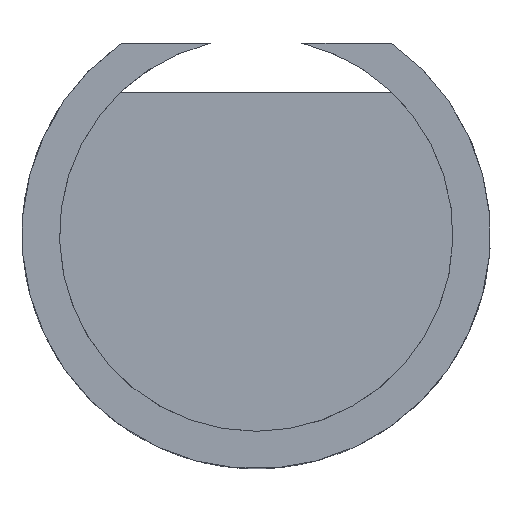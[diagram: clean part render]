
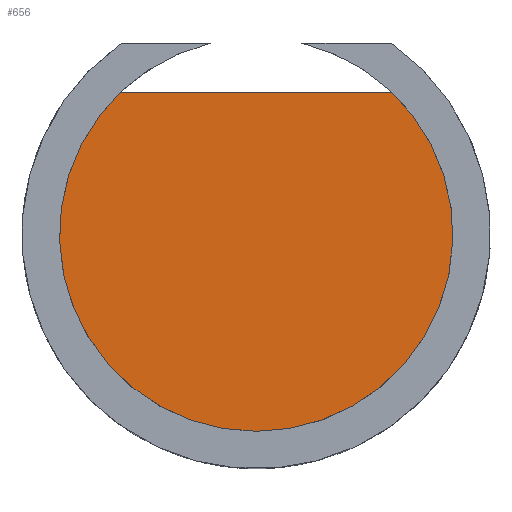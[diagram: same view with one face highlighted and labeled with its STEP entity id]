
A CAD part, front view. The second image highlights one B-rep face of the part: STEP entity #656.
In plain terms, the highlighted planar face has unit normal (0, -1, 0).
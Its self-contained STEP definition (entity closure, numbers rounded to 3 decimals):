
#270 = CYLINDRICAL_SURFACE('',#271,20.95);
#271 = AXIS2_PLACEMENT_3D('',#272,#273,#274);
#272 = CARTESIAN_POINT('',(18.,0.,0.));
#273 = DIRECTION('',(1.,0.,0.));
#274 = DIRECTION('',(0.,0.,-1.));
#510 = CYLINDRICAL_SURFACE('',#511,3.15);
#511 = AXIS2_PLACEMENT_3D('',#512,#513,#514);
#512 = CARTESIAN_POINT('',(33.,12.55,14.5));
#513 = DIRECTION('',(0.,-1.,0.));
#514 = DIRECTION('',(1.,0.,0.));
#527 = VERTEX_POINT('',#528);
#528 = CARTESIAN_POINT('',(30.821,12.55,16.775));
#576 = EDGE_CURVE('',#577,#527,#579,.T.);
#577 = VERTEX_POINT('',#578);
#578 = CARTESIAN_POINT('',(35.179,12.55,16.775));
#579 = SURFACE_CURVE('',#580,(#585,#592),.PCURVE_S1.);
#580 = CIRCLE('',#581,3.15);
#581 = AXIS2_PLACEMENT_3D('',#582,#583,#584);
#582 = CARTESIAN_POINT('',(33.,12.55,14.5));
#583 = DIRECTION('',(0.,1.,0.));
#584 = DIRECTION('',(0.692,-0.,0.722));
#585 = PCURVE('',#510,#586);
#586 = DEFINITIONAL_REPRESENTATION('',(#587),#591);
#587 = LINE('',#588,#589);
#588 = CARTESIAN_POINT('',(7.09,0.));
#589 = VECTOR('',#590,1.);
#590 = DIRECTION('',(-1.,-0.));
#591 = ( GEOMETRIC_REPRESENTATION_CONTEXT(2) 
PARAMETRIC_REPRESENTATION_CONTEXT() REPRESENTATION_CONTEXT('2D SPACE',''
  ) );
#592 = PCURVE('',#593,#598);
#593 = PLANE('',#594);
#594 = AXIS2_PLACEMENT_3D('',#595,#596,#597);
#595 = CARTESIAN_POINT('',(33.,12.55,14.5));
#596 = DIRECTION('',(0.,-1.,0.));
#597 = DIRECTION('',(1.,0.,0.));
#598 = DEFINITIONAL_REPRESENTATION('',(#599),#607);
#599 = ( BOUNDED_CURVE() B_SPLINE_CURVE(2,(#600,#601,#602,#603,#604,#605
,#606),.UNSPECIFIED.,.T.,.F.) B_SPLINE_CURVE_WITH_KNOTS((1,2,2,2,2,1),(
    -2.094,0.,2.094,4.189,6.283,
8.378),.UNSPECIFIED.) CURVE() GEOMETRIC_REPRESENTATION_ITEM() 
RATIONAL_B_SPLINE_CURVE((1.,0.5,1.,0.5,1.,0.5,1.)) REPRESENTATION_ITEM(
  '') );
#600 = CARTESIAN_POINT('',(2.179,2.275));
#601 = CARTESIAN_POINT('',(6.119,-1.499));
#602 = CARTESIAN_POINT('',(0.881,-3.024));
#603 = CARTESIAN_POINT('',(-4.358,-4.55));
#604 = CARTESIAN_POINT('',(-3.06,0.749));
#605 = CARTESIAN_POINT('',(-1.762,6.049));
#606 = CARTESIAN_POINT('',(2.179,2.275));
#607 = ( GEOMETRIC_REPRESENTATION_CONTEXT(2) 
PARAMETRIC_REPRESENTATION_CONTEXT() REPRESENTATION_CONTEXT('2D SPACE',''
  ) );
#656 = ADVANCED_FACE('',(#657),#593,.T.);
#657 = FACE_BOUND('',#658,.T.);
#658 = EDGE_LOOP('',(#659,#678));
#659 = ORIENTED_EDGE('',*,*,#660,.F.);
#660 = EDGE_CURVE('',#527,#577,#661,.T.);
#661 = SURFACE_CURVE('',#662,(#666,#672),.PCURVE_S1.);
#662 = LINE('',#663,#664);
#663 = CARTESIAN_POINT('',(18.,12.55,16.775));
#664 = VECTOR('',#665,1.);
#665 = DIRECTION('',(1.,0.,0.));
#666 = PCURVE('',#593,#667);
#667 = DEFINITIONAL_REPRESENTATION('',(#668),#671);
#668 = B_SPLINE_CURVE_WITH_KNOTS('',1,(#669,#670),.UNSPECIFIED.,.F.,.F.,
  (2,2),(11.25,18.75),.PIECEWISE_BEZIER_KNOTS.);
#669 = CARTESIAN_POINT('',(-3.75,2.275));
#670 = CARTESIAN_POINT('',(3.75,2.275));
#671 = ( GEOMETRIC_REPRESENTATION_CONTEXT(2) 
PARAMETRIC_REPRESENTATION_CONTEXT() REPRESENTATION_CONTEXT('2D SPACE',''
  ) );
#672 = PCURVE('',#270,#673);
#673 = DEFINITIONAL_REPRESENTATION('',(#674),#677);
#674 = B_SPLINE_CURVE_WITH_KNOTS('',1,(#675,#676),.UNSPECIFIED.,.F.,.F.,
  (2,2),(11.25,18.75),.PIECEWISE_BEZIER_KNOTS.);
#675 = CARTESIAN_POINT('',(2.499,11.25));
#676 = CARTESIAN_POINT('',(2.499,18.75));
#677 = ( GEOMETRIC_REPRESENTATION_CONTEXT(2) 
PARAMETRIC_REPRESENTATION_CONTEXT() REPRESENTATION_CONTEXT('2D SPACE',''
  ) );
#678 = ORIENTED_EDGE('',*,*,#576,.F.);
